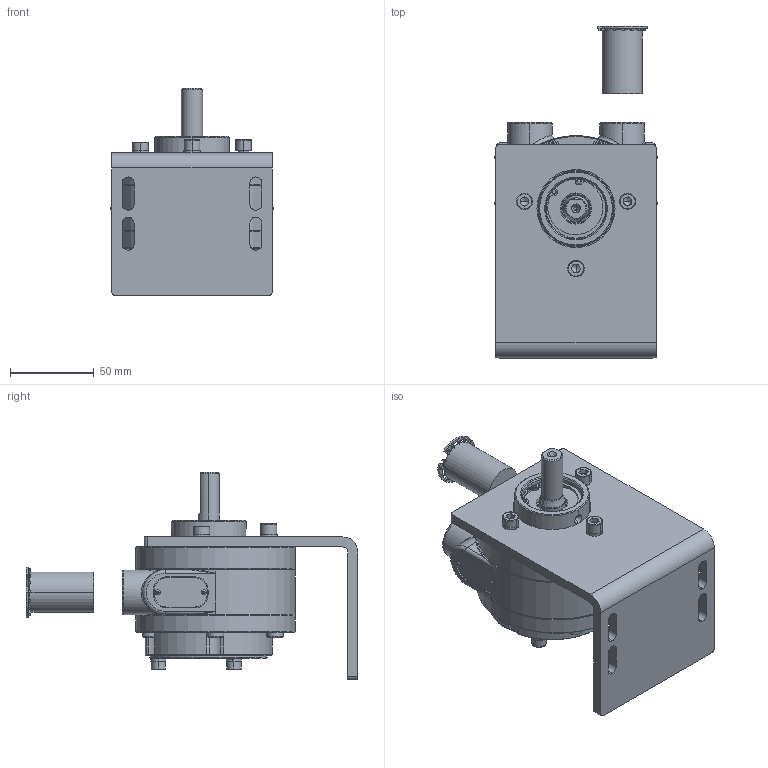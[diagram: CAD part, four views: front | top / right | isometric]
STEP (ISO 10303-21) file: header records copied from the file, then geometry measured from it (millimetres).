
FILE_DESCRIPTION (( 'STEP AP214' ), '1' );
FILE_NAME ('2VMS-SGI (22-04-26).STEP', '2026-04-22T08:38:57', ( '' ), ( '' ), 'SwSTEP 2.0', 'SolidWorks 2017', '' );
FILE_SCHEMA (( 'AUTOMOTIVE_DESIGN' ));
Length unit declared in the file: millimetre
Products named in the file (2): 2VMS-SGI (22-04-26)
Bounding box: 96.6 x 197.7 x 123.4 mm (x, y, z)
Volume: 346797.1 mm3; surface area: 148262.8 mm2
Topology: 41 solids, 41 shells, 1276 faces, 3318 edges, 2109 vertices
Faces by surface type: plane 513, cylinder 399, cone 241, bspline 123
Entity records: 55383 total; most frequent: CARTESIAN_POINT 13844, DIRECTION 6961, ORIENTED_EDGE 6834, EDGE_CURVE 3417, AXIS2_PLACEMENT_3D 2680, VERTEX_POINT 2213, VECTOR 1601, LINE 1601
